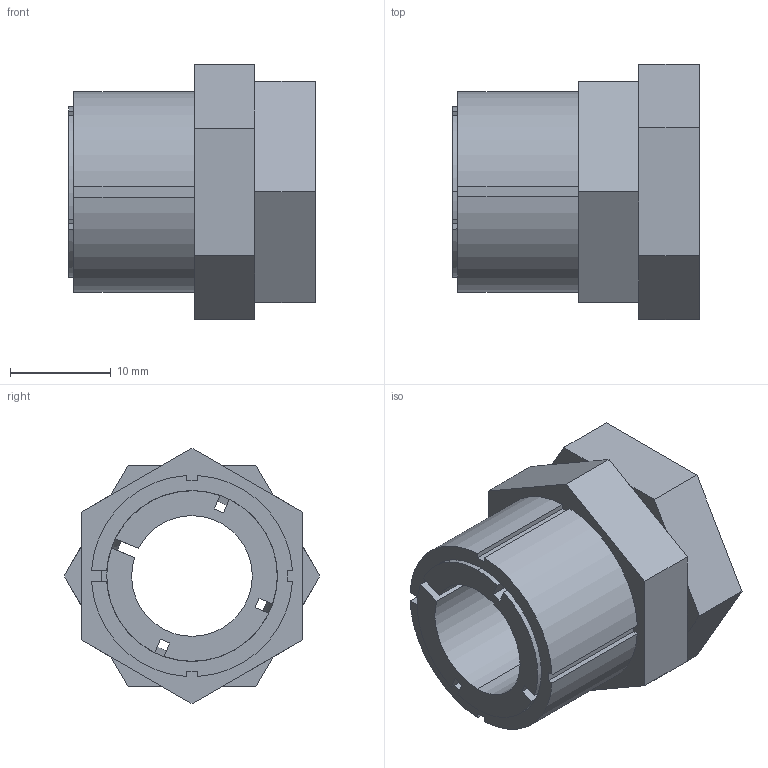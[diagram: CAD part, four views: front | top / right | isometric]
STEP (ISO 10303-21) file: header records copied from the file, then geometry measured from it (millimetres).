
FILE_DESCRIPTION (( 'STEP AP203' ), '1' );
FILE_NAME ('KBS 59 - 12 x 20.STEP', '2015-07-07T21:01:31', ( '' ), ( '' ), 'SwSTEP 2.0', 'SolidWorks 2010', '' );
FILE_SCHEMA (( 'CONFIG_CONTROL_DESIGN' ));
Length unit declared in the file: millimetre
Products named in the file (1): KBS 59 - 12 x 20
Bounding box: 24.5 x 25.4 x 25.4 mm (x, y, z)
Volume: 5816.6 mm3; surface area: 6395.4 mm2
Topology: 3 solids, 3 shells, 78 faces, 204 edges, 132 vertices
Faces by surface type: plane 56, cylinder 14, cone 8
Entity records: 2469 total; most frequent: CARTESIAN_POINT 451, ORIENTED_EDGE 408, DIRECTION 396, EDGE_CURVE 204, VECTOR 150, LINE 150, VERTEX_POINT 132, AXIS2_PLACEMENT_3D 123
